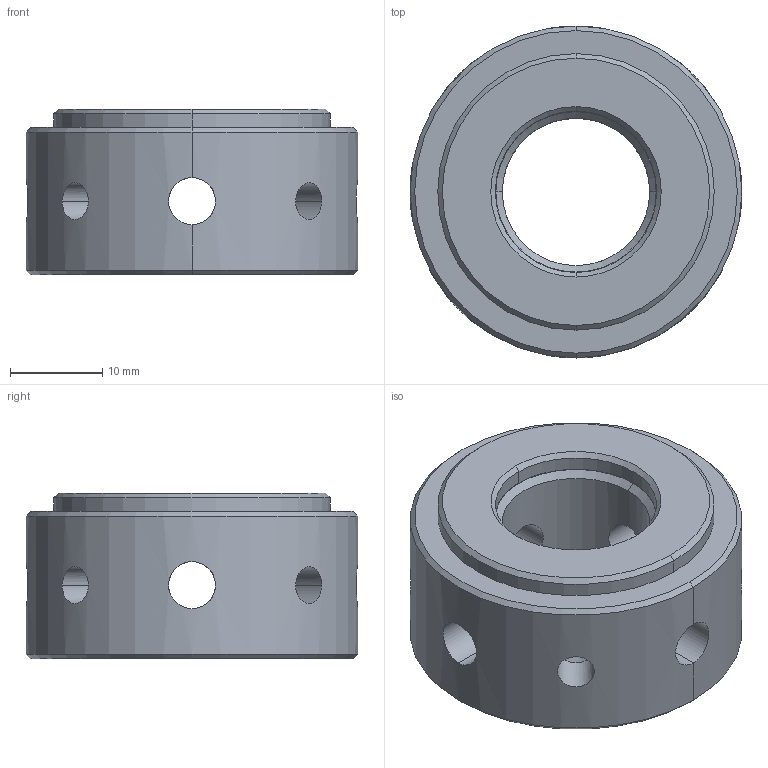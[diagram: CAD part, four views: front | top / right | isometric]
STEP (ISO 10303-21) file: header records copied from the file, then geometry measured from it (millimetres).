
FILE_DESCRIPTION (( 'STEP AP203' ), '1' );
FILE_NAME ('WBK17.STEP', '2013-01-07T05:04:59', ( '' ), ( '' ), 'SwSTEP 2.0', 'SolidWorks 2012', '' );
FILE_SCHEMA (( 'CONFIG_CONTROL_DESIGN' ));
Length unit declared in the file: millimetre
Products named in the file (1): WBK17
Bounding box: 36 x 36 x 18 mm (x, y, z)
Volume: 12580.3 mm3; surface area: 5323 mm2
Topology: 1 solids, 1 shells, 64 faces, 156 edges, 84 vertices
Faces by surface type: cylinder 32, cone 28, plane 4
Entity records: 2501 total; most frequent: CARTESIAN_POINT 1009, DIRECTION 298, ORIENTED_EDGE 280, EDGE_CURVE 140, AXIS2_PLACEMENT_3D 117, VERTEX_POINT 84, EDGE_LOOP 80, ADVANCED_FACE 64
